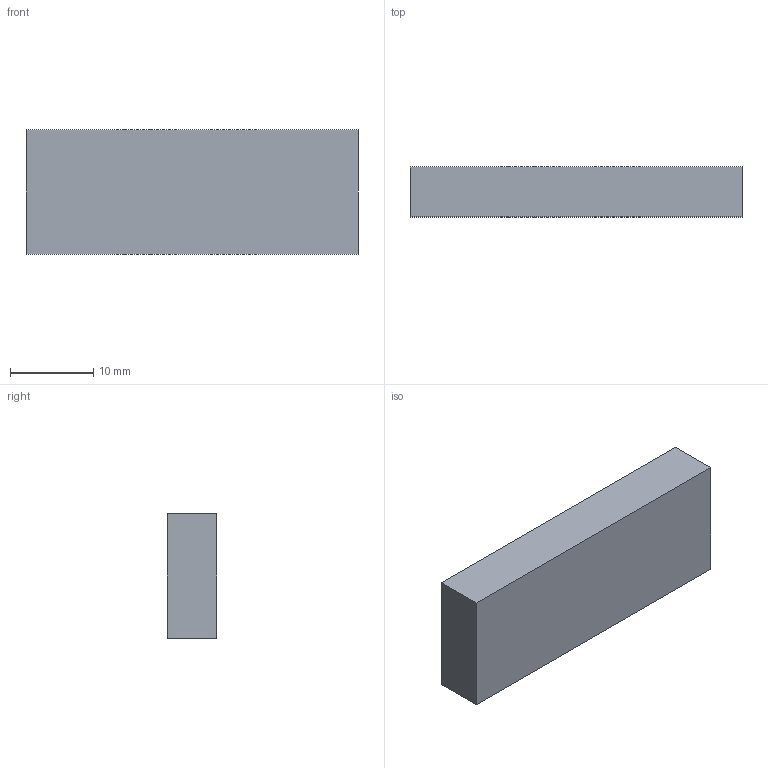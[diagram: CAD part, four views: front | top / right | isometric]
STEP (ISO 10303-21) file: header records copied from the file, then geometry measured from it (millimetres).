
FILE_DESCRIPTION(('Open CASCADE Model'),'2;1');
FILE_NAME('Open CASCADE Shape Model','2026-11-24T19:57:38',('Author'),( 'Open CASCADE'),'Open CASCADE STEP processor 7.8','Open CASCADE 7.8' ,'Unknown');
FILE_SCHEMA(('AUTOMOTIVE_DESIGN { 1 0 10303 214 1 1 1 1 }'));
Length unit declared in the file: millimetre
Products named in the file (1): Open CASCADE STEP translator 7.8 2
Bounding box: 40 x 6 x 15 mm (x, y, z)
Volume: 3600 mm3; surface area: 1860 mm2
Topology: 1 solids, 1 shells, 6 faces, 12 edges, 8 vertices
Faces by surface type: plane 6
Entity records: 322 total; most frequent: CARTESIAN_POINT 51, DIRECTION 50, LINE 36, VECTOR 36, ORIENTED_EDGE 24, PCURVE 24, DEFINITIONAL_REPRESENTATION 24, EDGE_CURVE 12
